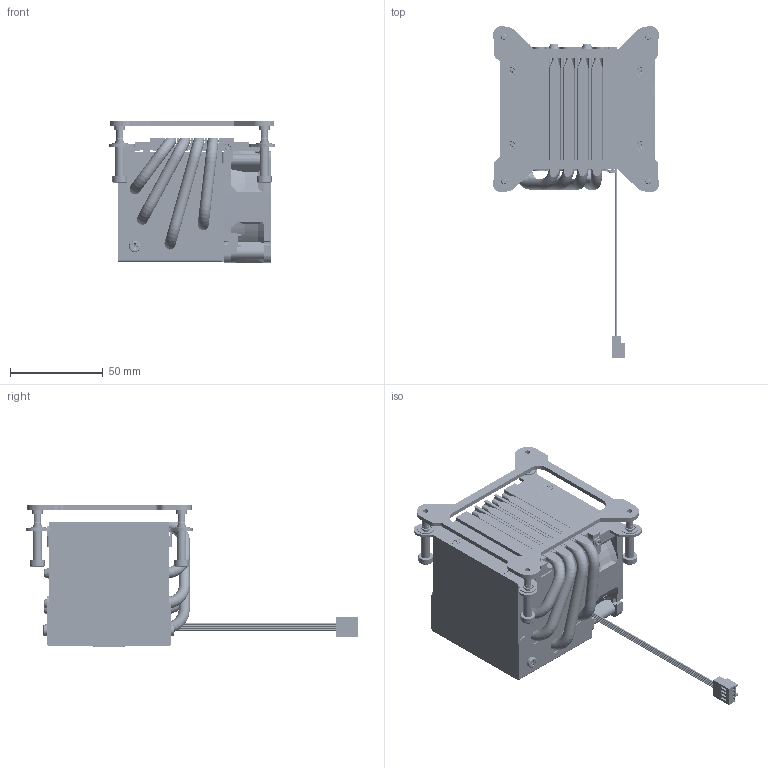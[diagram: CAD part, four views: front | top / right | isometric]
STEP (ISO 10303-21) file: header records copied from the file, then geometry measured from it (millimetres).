
FILE_DESCRIPTION((''),'2;1');
FILE_NAME('RGD3226-002_ME_ASM','2022-10-11T',('User'),(''),'PRO/ENGINEER BY PARAMETRIC TECHNOLOGY CORPORATION, 2017170','PRO/ENGINEER BY PARAMETRIC TECHNOLOGY CORPORATION, 2017170','');
FILE_SCHEMA(('CONFIG_CONTROL_DESIGN'));
Products named in the file (30): LV_BASE_6_1_1_1; 1700_KOUJU_2_1_1_2; 1700_KOUJU_2_1_1_1_1; LS_M3_1_3_1_1_1; PIPE04_6_1_1_1; LS_M3_1_2_1_1_1; LS04_1_1_1_1; LS_M3_1_1_1_2; LS_M3_1_1_1_1_1; PIPE01_6_1_1_1; PIPE02_6_1_1_1; LS03_1_1_1_1_1; LS03_1_1_1_2; PIPE03_6_1_1_1; FAN_ZJ_6_1_1_1; M3_29_5L_SCREW_1_1; 4_E-RING_1_1; SCREW_ASSY_ASM_1_ASM_5_ASM; 6025_FRAME_1_1_3; 6025-IM_1_1_1; LABEL_R30_1_1_2; 4P-PLUGZ_1_2; M2_5_30L_SCREW_1_1; EF6274_6025FAN_ASSY_ASM_1_ASM_1_ASM; 850-BP-1700-5_1_2; ADHESIVE_1_5; MYLAR_1_5; 850-BP1700-5_ASM_1_ASM_2_ASM; RGD3226-002_ME_ASM_1_ASM; RGD3226-002_ME_ASM
Assembly tree (35 placements, depth 4):
  RGD3226-002_ME_ASM
    RGD3226-002_ME_ASM_1_ASM
      LV_BASE_6_1_1_1
      1700_KOUJU_2_1_1_2
      1700_KOUJU_2_1_1_1_1
      LS_M3_1_3_1_1_1
      PIPE04_6_1_1_1
      LS_M3_1_2_1_1_1
      LS04_1_1_1_1
      LS_M3_1_1_1_2
      LS_M3_1_1_1_1_1
      PIPE01_6_1_1_1
      PIPE02_6_1_1_1
      LS03_1_1_1_1_1
      LS03_1_1_1_2
      PIPE03_6_1_1_1
      FAN_ZJ_6_1_1_1
      SCREW_ASSY_ASM_1_ASM_5_ASM  x4
        M3_29_5L_SCREW_1_1
        4_E-RING_1_1
      EF6274_6025FAN_ASSY_ASM_1_ASM_1_ASM
        6025_FRAME_1_1_3
        6025-IM_1_1_1
        LABEL_R30_1_1_2
        4P-PLUGZ_1_2
        M2_5_30L_SCREW_1_1  x4
      850-BP1700-5_ASM_1_ASM_2_ASM
        850-BP-1700-5_1_2
        ADHESIVE_1_5
        MYLAR_1_5
Bounding box: 90 x 179.34 x 76.33 mm (x, y, z)
Volume: 323488.5 mm3; surface area: 121856.5 mm2
Topology: 33 solids, 47 shells, 3415 faces, 9707 edges, 6446 vertices
Faces by surface type: cylinder 1582, plane 1115, bspline 276, cone 159, torus 154, extrusion 95, sphere 34
Entity records: 130929 total; most frequent: CARTESIAN_POINT 68343, ORIENTED_EDGE 13882, DIRECTION 11774, EDGE_CURVE 6990, VERTEX_POINT 4723, AXIS2_PLACEMENT_3D 4251, VECTOR 3272, LINE 3177
